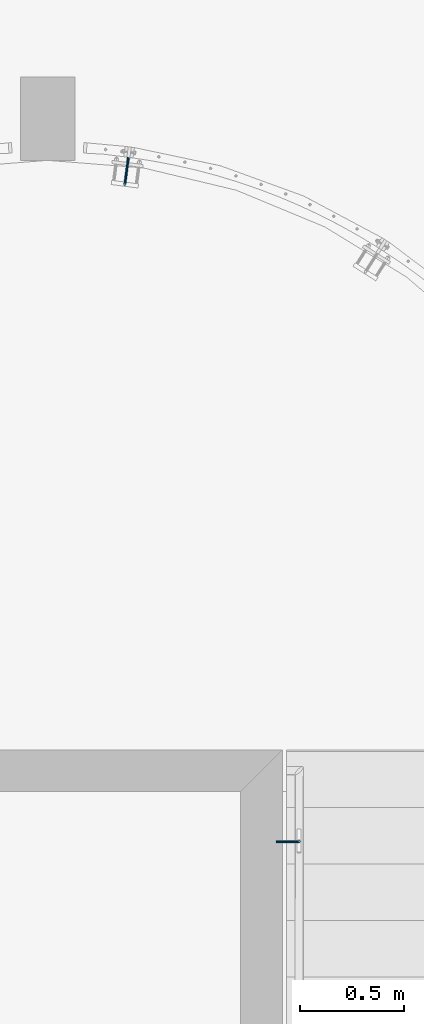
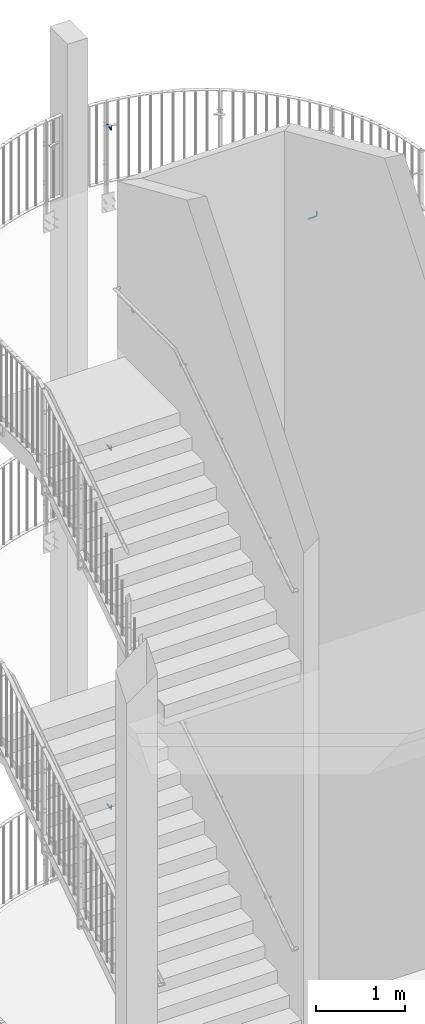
# One storey, part 142 of 296: 4 beams.
"""IFC2X3 building model written with IfcOpenShell, lengths in millimetres."""

from ifc_helpers import new_model, entity, si_unit, converted_unit, origin_with_axes, place, context, project, spatial, faceted_brep, material, element, save


model = new_model("IFC2X3")

# Units and contexts
model_context = context("Model", 3, precision=1e-09, world=origin_with_axes())
ifc_project = project(units=[si_unit("LENGTHUNIT", "METRE", prefix="MILLI"), si_unit("AREAUNIT", "SQUARE_METRE"), si_unit("VOLUMEUNIT", "CUBIC_METRE"), converted_unit("PLANEANGLEUNIT", "DEGREE", entity("IfcPlaneAngleMeasure", 0.01745329), si_unit("PLANEANGLEUNIT", "RADIAN"), dimensions=[0, 0, 0, 0, 0, 0, 0])], contexts=[model_context])

# Site, building, storey
site_placement = place(None, origin_with_axes())
site = spatial("IfcSite", under=ifc_project, at=site_placement, Name="TZD-S?d | Treppenhausgel?nder", CompositionType="ELEMENT")
building_placement = place(site_placement, origin_with_axes())
building = spatial("IfcBuilding", under=site, at=building_placement, Name="Struktur 1", CompositionType="ELEMENT")
storey_placement = place(building_placement, origin_with_axes())
storey = spatial("IfcBuildingStorey", under=building, at=storey_placement, Name="Default Storey", CompositionType="ELEMENT", Elevation=0.0)

# Beams
ifc_material = material(Name="S235JR")
beam_1_placement = place(None, origin_with_axes())
element("IfcBeam", 1, at=beam_1_placement, inside=storey, material=ifc_material, Name="-", ObjectType="-", context=model_context, shape_type="Brep", body=[
    faceted_brep([(3296.594669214, 2704.950627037, 12585.0), (3298.694323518, 2705.986061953, 12585.0), (3300.237907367, 2707.746181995, 12585.0), (3300.990424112, 2709.963024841, 12585.0), (3300.837309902, 2712.299096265, 12585.0), (3299.801874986, 2714.398750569, 12585.0), (3298.041754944, 2715.942334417, 12585.0), (3295.824912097, 2716.694851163, 12585.0), (3293.488840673, 2716.541736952, 12585.0), (3291.38918637, 2715.506302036, 12585.0), (3289.845602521, 2713.746181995, 12585.0), (3289.093085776, 2711.529339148, 12585.0), (3289.246199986, 2709.193267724, 12585.0), (3290.281634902, 2707.093613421, 12585.0), (3292.041754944, 2705.550029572, 12585.0), (3294.258597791, 2704.797512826, 12585.0), (3316.21650424, 2839.080238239, 12515.757359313), (3314.286617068, 2839.334312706, 12514.456722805), (3312.010159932, 2839.634013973, 12514.0), (3309.733702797, 2839.933715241, 12514.456722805), (3307.803815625, 2840.187789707, 12515.757359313), (3306.514306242, 2840.357556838, 12517.703899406), (3306.061490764, 2840.417171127, 12520.0), (3306.514306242, 2840.357556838, 12522.296100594), (3307.803815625, 2840.187789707, 12524.242640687), (3309.733702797, 2839.933715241, 12525.543277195), (3312.010159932, 2839.634013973, 12526.0), (3314.286617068, 2839.334312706, 12525.543277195), (3316.21650424, 2839.080238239, 12524.242640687), (3317.506013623, 2838.910471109, 12522.296100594), (3317.958829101, 2838.85085682, 12520.0), (3317.506013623, 2838.910471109, 12517.703899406), (3296.594669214, 2704.950627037, 12540.0), (3298.694323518, 2705.986061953, 12540.0), (3300.237907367, 2707.746181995, 12540.0), (3300.990424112, 2709.963024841, 12540.0), (3300.837309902, 2712.299096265, 12540.0), (3299.801874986, 2714.398750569, 12540.0), (3298.041754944, 2715.942334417, 12540.0), (3295.824912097, 2716.694851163, 12540.0), (3293.488840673, 2716.541736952, 12540.0), (3291.38918637, 2715.506302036, 12540.0), (3289.845602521, 2713.746181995, 12540.0), (3289.093085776, 2711.529339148, 12540.0), (3289.246199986, 2709.193267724, 12540.0), (3290.281634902, 2707.093613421, 12540.0), (3292.041754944, 2705.550029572, 12540.0), (3294.258597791, 2704.797512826, 12540.0), (3296.848459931, 2706.878358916, 12530.225011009), (3298.935191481, 2707.815635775, 12530.722743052), (3300.459435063, 2709.428851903, 12531.467651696), (3301.189138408, 2711.472409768, 12532.346331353), (3301.013210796, 2713.635196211, 12533.225011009), (3299.958435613, 2715.5879466, 12533.969919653), (3298.185392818, 2717.033372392, 12534.467651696), (3295.964012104, 2717.751420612, 12534.642431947), (3293.632478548, 2717.632774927, 12534.467651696), (3291.545746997, 2716.695498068, 12533.969919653), (3290.021503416, 2715.08228194, 12533.225011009), (3289.291800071, 2713.038724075, 12532.346331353), (3289.467727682, 2710.875937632, 12531.467651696), (3290.522502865, 2708.923187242, 12530.722743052), (3292.29554566, 2707.477761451, 12530.225011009), (3294.516926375, 2706.759713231, 12530.050230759), (3297.571194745, 2712.368074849, 12521.938175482), (3299.621125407, 2713.025821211, 12522.857864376), (3301.090292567, 2714.220690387, 12524.234276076), (3301.755028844, 2715.770774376, 12525.857864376), (3301.514134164, 2717.440086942, 12527.481452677), (3300.40428256, 2718.974490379, 12528.857864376), (3298.594438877, 2720.140385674, 12529.777553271), (3296.360135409, 2720.760275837, 12530.100505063), (3294.041524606, 2720.739788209, 12529.777553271), (3291.991593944, 2720.082041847, 12528.857864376), (3290.522426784, 2718.887172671, 12527.481452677), (3289.857690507, 2717.337088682, 12525.857864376), (3290.098585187, 2715.667776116, 12524.234276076), (3291.208436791, 2714.133372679, 12522.857864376), (3293.018280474, 2712.967477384, 12521.938175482), (3295.252583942, 2712.347587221, 12521.615223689), (3298.652843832, 2720.58401535, 12516.401089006), (3300.647698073, 2720.82341476, 12517.602720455), (3302.034437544, 2721.392183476, 12519.401089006), (3302.601943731, 2722.203731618, 12521.52240935), (3302.263818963, 2723.134508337, 12523.643729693), (3301.07153967, 2724.042811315, 12525.442098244), (3299.206619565, 2724.790359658, 12526.643729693), (3296.952975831, 2725.263345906, 12527.065686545), (3294.653705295, 2725.389762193, 12526.643729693), (3292.658851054, 2725.150362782, 12525.442098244), (3291.272111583, 2724.581594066, 12523.643729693), (3290.704605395, 2723.770045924, 12521.52240935), (3291.042730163, 2722.839269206, 12519.401089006), (3292.235009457, 2721.930966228, 12517.602720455), (3294.099929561, 2721.183417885, 12516.401089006), (3296.353573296, 2720.710431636, 12515.979132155), (3299.928735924, 2730.275377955, 12514.456722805), (3301.858623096, 2730.021303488, 12515.757359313), (3303.148132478, 2729.851536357, 12517.703899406), (3303.600947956, 2729.791922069, 12520.0), (3303.148132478, 2729.851536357, 12522.296100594), (3301.858623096, 2730.021303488, 12524.242640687), (3299.928735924, 2730.275377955, 12525.543277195), (3297.652278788, 2730.575079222, 12526.0), (3295.375821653, 2730.87478049, 12525.543277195), (3293.44593448, 2731.128854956, 12524.242640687), (3292.156425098, 2731.298622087, 12522.296100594), (3291.70360962, 2731.358236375, 12520.0), (3292.156425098, 2731.298622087, 12517.703899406), (3293.44593448, 2731.128854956, 12515.757359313), (3295.375821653, 2730.87478049, 12514.456722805), (3297.652278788, 2730.575079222, 12514.0)], [[[0, 1, 2, 3, 4, 5, 6, 7, 8, 9, 10, 11, 12, 13, 14, 15]], [[16, 17, 18, 19, 20, 21, 22, 23, 24, 25, 26, 27, 28, 29, 30, 31]], [[1, 0, 32, 33]], [[2, 1, 33, 34]], [[3, 2, 34, 35]], [[4, 3, 35, 36]], [[5, 4, 36, 37]], [[6, 5, 37, 38]], [[7, 6, 38, 39]], [[8, 7, 39, 40]], [[9, 8, 40, 41]], [[10, 9, 41, 42]], [[11, 10, 42, 43]], [[12, 11, 43, 44]], [[13, 12, 44, 45]], [[14, 13, 45, 46]], [[15, 14, 46, 47]], [[0, 15, 47, 32]], [[33, 32, 48, 49]], [[34, 33, 49, 50]], [[35, 34, 50, 51]], [[36, 35, 51, 52]], [[37, 36, 52, 53]], [[38, 37, 53, 54]], [[39, 38, 54, 55]], [[40, 39, 55, 56]], [[41, 40, 56, 57]], [[42, 41, 57, 58]], [[43, 42, 58, 59]], [[44, 43, 59, 60]], [[45, 44, 60, 61]], [[46, 45, 61, 62]], [[47, 46, 62, 63]], [[32, 47, 63, 48]], [[49, 48, 64, 65]], [[50, 49, 65, 66]], [[51, 50, 66, 67]], [[52, 51, 67, 68]], [[53, 52, 68, 69]], [[54, 53, 69, 70]], [[55, 54, 70, 71]], [[56, 55, 71, 72]], [[57, 56, 72, 73]], [[58, 57, 73, 74]], [[59, 58, 74, 75]], [[60, 59, 75, 76]], [[61, 60, 76, 77]], [[62, 61, 77, 78]], [[63, 62, 78, 79]], [[48, 63, 79, 64]], [[65, 64, 80, 81]], [[66, 65, 81, 82]], [[67, 66, 82, 83]], [[68, 67, 83, 84]], [[69, 68, 84, 85]], [[70, 69, 85, 86]], [[71, 70, 86, 87]], [[72, 71, 87, 88]], [[73, 72, 88, 89]], [[74, 73, 89, 90]], [[75, 74, 90, 91]], [[76, 75, 91, 92]], [[77, 76, 92, 93]], [[78, 77, 93, 94]], [[79, 78, 94, 95]], [[64, 79, 95, 80]], [[81, 80, 96, 97]], [[82, 81, 97, 98]], [[83, 82, 98, 99]], [[84, 83, 99, 100]], [[85, 84, 100, 101]], [[86, 85, 101, 102]], [[87, 86, 102, 103]], [[88, 87, 103, 104]], [[89, 88, 104, 105]], [[90, 89, 105, 106]], [[91, 90, 106, 107]], [[92, 91, 107, 108]], [[93, 92, 108, 109]], [[94, 93, 109, 110]], [[95, 94, 110, 111]], [[80, 95, 111, 96]], [[97, 96, 17, 16]], [[98, 97, 16, 31]], [[99, 98, 31, 30]], [[100, 99, 30, 29]], [[101, 100, 29, 28]], [[102, 101, 28, 27]], [[103, 102, 27, 26]], [[104, 103, 26, 25]], [[105, 104, 25, 24]], [[106, 105, 24, 23]], [[107, 106, 23, 22]], [[108, 107, 22, 21]], [[109, 108, 21, 20]], [[110, 109, 20, 19]], [[111, 110, 19, 18]], [[96, 111, 18, 17]]]),
])
beam_2_placement = place(None, origin_with_axes())
element("IfcBeam", 2, at=beam_2_placement, inside=storey, material=ifc_material, Name="-", ObjectType="-", context=model_context, shape_type="Brep", body=[
    faceted_brep([(3296.594669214, 2704.950627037, 8210.0), (3298.694323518, 2705.986061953, 8210.0), (3300.237907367, 2707.746181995, 8210.0), (3300.990424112, 2709.963024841, 8210.0), (3300.837309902, 2712.299096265, 8210.0), (3299.801874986, 2714.398750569, 8210.0), (3298.041754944, 2715.942334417, 8210.0), (3295.824912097, 2716.694851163, 8210.0), (3293.488840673, 2716.541736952, 8210.0), (3291.38918637, 2715.506302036, 8210.0), (3289.845602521, 2713.746181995, 8210.0), (3289.093085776, 2711.529339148, 8210.0), (3289.246199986, 2709.193267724, 8210.0), (3290.281634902, 2707.093613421, 8210.0), (3292.041754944, 2705.550029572, 8210.0), (3294.258597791, 2704.797512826, 8210.0), (3316.21650424, 2839.080238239, 8140.757359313), (3314.286617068, 2839.334312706, 8139.456722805), (3312.010159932, 2839.634013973, 8139.0), (3309.733702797, 2839.933715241, 8139.456722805), (3307.803815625, 2840.187789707, 8140.757359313), (3306.514306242, 2840.357556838, 8142.703899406), (3306.061490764, 2840.417171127, 8145.0), (3306.514306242, 2840.357556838, 8147.296100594), (3307.803815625, 2840.187789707, 8149.242640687), (3309.733702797, 2839.933715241, 8150.543277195), (3312.010159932, 2839.634013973, 8151.0), (3314.286617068, 2839.334312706, 8150.543277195), (3316.21650424, 2839.080238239, 8149.242640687), (3317.506013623, 2838.910471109, 8147.296100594), (3317.958829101, 2838.85085682, 8145.0), (3317.506013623, 2838.910471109, 8142.703899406), (3296.594669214, 2704.950627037, 8165.0), (3298.694323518, 2705.986061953, 8165.0), (3300.237907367, 2707.746181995, 8165.0), (3300.990424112, 2709.963024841, 8165.0), (3300.837309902, 2712.299096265, 8165.0), (3299.801874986, 2714.398750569, 8165.0), (3298.041754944, 2715.942334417, 8165.0), (3295.824912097, 2716.694851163, 8165.0), (3293.488840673, 2716.541736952, 8165.0), (3291.38918637, 2715.506302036, 8165.0), (3289.845602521, 2713.746181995, 8165.0), (3289.093085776, 2711.529339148, 8165.0), (3289.246199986, 2709.193267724, 8165.0), (3290.281634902, 2707.093613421, 8165.0), (3292.041754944, 2705.550029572, 8165.0), (3294.258597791, 2704.797512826, 8165.0), (3296.848459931, 2706.878358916, 8155.225011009), (3298.935191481, 2707.815635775, 8155.722743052), (3300.459435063, 2709.428851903, 8156.467651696), (3301.189138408, 2711.472409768, 8157.346331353), (3301.013210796, 2713.635196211, 8158.225011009), (3299.958435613, 2715.5879466, 8158.969919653), (3298.185392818, 2717.033372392, 8159.467651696), (3295.964012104, 2717.751420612, 8159.642431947), (3293.632478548, 2717.632774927, 8159.467651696), (3291.545746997, 2716.695498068, 8158.969919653), (3290.021503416, 2715.08228194, 8158.225011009), (3289.291800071, 2713.038724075, 8157.346331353), (3289.467727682, 2710.875937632, 8156.467651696), (3290.522502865, 2708.923187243, 8155.722743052), (3292.29554566, 2707.477761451, 8155.225011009), (3294.516926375, 2706.759713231, 8155.050230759), (3297.571194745, 2712.368074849, 8146.938175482), (3299.621125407, 2713.025821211, 8147.857864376), (3301.090292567, 2714.220690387, 8149.234276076), (3301.755028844, 2715.770774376, 8150.857864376), (3301.514134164, 2717.440086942, 8152.481452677), (3300.40428256, 2718.974490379, 8153.857864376), (3298.594438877, 2720.140385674, 8154.777553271), (3296.360135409, 2720.760275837, 8155.100505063), (3294.041524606, 2720.739788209, 8154.777553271), (3291.991593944, 2720.082041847, 8153.857864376), (3290.522426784, 2718.887172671, 8152.481452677), (3289.857690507, 2717.337088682, 8150.857864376), (3290.098585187, 2715.667776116, 8149.234276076), (3291.208436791, 2714.133372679, 8147.857864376), (3293.018280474, 2712.967477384, 8146.938175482), (3295.252583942, 2712.347587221, 8146.615223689), (3298.652843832, 2720.58401535, 8141.401089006), (3300.647698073, 2720.82341476, 8142.602720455), (3302.034437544, 2721.392183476, 8144.401089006), (3302.601943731, 2722.203731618, 8146.52240935), (3302.263818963, 2723.134508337, 8148.643729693), (3301.07153967, 2724.042811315, 8150.442098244), (3299.206619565, 2724.790359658, 8151.643729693), (3296.952975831, 2725.263345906, 8152.065686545), (3294.653705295, 2725.389762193, 8151.643729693), (3292.658851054, 2725.150362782, 8150.442098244), (3291.272111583, 2724.581594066, 8148.643729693), (3290.704605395, 2723.770045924, 8146.52240935), (3291.042730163, 2722.839269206, 8144.401089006), (3292.235009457, 2721.930966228, 8142.602720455), (3294.099929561, 2721.183417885, 8141.401089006), (3296.353573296, 2720.710431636, 8140.979132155), (3299.928735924, 2730.275377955, 8139.456722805), (3301.858623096, 2730.021303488, 8140.757359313), (3303.148132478, 2729.851536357, 8142.703899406), (3303.600947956, 2729.791922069, 8145.0), (3303.148132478, 2729.851536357, 8147.296100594), (3301.858623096, 2730.021303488, 8149.242640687), (3299.928735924, 2730.275377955, 8150.543277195), (3297.652278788, 2730.575079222, 8151.0), (3295.375821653, 2730.87478049, 8150.543277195), (3293.44593448, 2731.128854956, 8149.242640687), (3292.156425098, 2731.298622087, 8147.296100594), (3291.70360962, 2731.358236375, 8145.0), (3292.156425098, 2731.298622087, 8142.703899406), (3293.44593448, 2731.128854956, 8140.757359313), (3295.375821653, 2730.87478049, 8139.456722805), (3297.652278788, 2730.575079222, 8139.0)], [[[0, 1, 2, 3, 4, 5, 6, 7, 8, 9, 10, 11, 12, 13, 14, 15]], [[16, 17, 18, 19, 20, 21, 22, 23, 24, 25, 26, 27, 28, 29, 30, 31]], [[1, 0, 32, 33]], [[2, 1, 33, 34]], [[3, 2, 34, 35]], [[4, 3, 35, 36]], [[5, 4, 36, 37]], [[6, 5, 37, 38]], [[7, 6, 38, 39]], [[8, 7, 39, 40]], [[9, 8, 40, 41]], [[10, 9, 41, 42]], [[11, 10, 42, 43]], [[12, 11, 43, 44]], [[13, 12, 44, 45]], [[14, 13, 45, 46]], [[15, 14, 46, 47]], [[0, 15, 47, 32]], [[33, 32, 48, 49]], [[34, 33, 49, 50]], [[35, 34, 50, 51]], [[36, 35, 51, 52]], [[37, 36, 52, 53]], [[38, 37, 53, 54]], [[39, 38, 54, 55]], [[40, 39, 55, 56]], [[41, 40, 56, 57]], [[42, 41, 57, 58]], [[43, 42, 58, 59]], [[44, 43, 59, 60]], [[45, 44, 60, 61]], [[46, 45, 61, 62]], [[47, 46, 62, 63]], [[32, 47, 63, 48]], [[49, 48, 64, 65]], [[50, 49, 65, 66]], [[51, 50, 66, 67]], [[52, 51, 67, 68]], [[53, 52, 68, 69]], [[54, 53, 69, 70]], [[55, 54, 70, 71]], [[56, 55, 71, 72]], [[57, 56, 72, 73]], [[58, 57, 73, 74]], [[59, 58, 74, 75]], [[60, 59, 75, 76]], [[61, 60, 76, 77]], [[62, 61, 77, 78]], [[63, 62, 78, 79]], [[48, 63, 79, 64]], [[65, 64, 80, 81]], [[66, 65, 81, 82]], [[67, 66, 82, 83]], [[68, 67, 83, 84]], [[69, 68, 84, 85]], [[70, 69, 85, 86]], [[71, 70, 86, 87]], [[72, 71, 87, 88]], [[73, 72, 88, 89]], [[74, 73, 89, 90]], [[75, 74, 90, 91]], [[76, 75, 91, 92]], [[77, 76, 92, 93]], [[78, 77, 93, 94]], [[79, 78, 94, 95]], [[64, 79, 95, 80]], [[81, 80, 96, 97]], [[82, 81, 97, 98]], [[83, 82, 98, 99]], [[84, 83, 99, 100]], [[85, 84, 100, 101]], [[86, 85, 101, 102]], [[87, 86, 102, 103]], [[88, 87, 103, 104]], [[89, 88, 104, 105]], [[90, 89, 105, 106]], [[91, 90, 106, 107]], [[92, 91, 107, 108]], [[93, 92, 108, 109]], [[94, 93, 109, 110]], [[95, 94, 110, 111]], [[80, 95, 111, 96]], [[97, 96, 17, 16]], [[98, 97, 16, 31]], [[99, 98, 31, 30]], [[100, 99, 30, 29]], [[101, 100, 29, 28]], [[102, 101, 28, 27]], [[103, 102, 27, 26]], [[104, 103, 26, 25]], [[105, 104, 25, 24]], [[106, 105, 24, 23]], [[107, 106, 23, 22]], [[108, 107, 22, 21]], [[109, 108, 21, 20]], [[110, 109, 20, 19]], [[111, 110, 19, 18]], [[96, 111, 18, 17]]]),
])
beam_3_placement = place(None, origin_with_axes())
element("IfcBeam", 3, at=beam_3_placement, inside=storey, material=ifc_material, Name="-", ObjectType="-", context=model_context, shape_type="Brep", body=[
    faceted_brep([(4133.10541862, -445.00184, 13035.889059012), (4126.89258138, -445.00184, 13035.889059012), (4127.702899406, -445.543277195, 13035.889059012), (4129.999, -446.0, 13035.889059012), (4132.295100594, -445.543277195, 13035.889059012), (4135.542277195, -442.296100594, 13034.137248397), (4134.241640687, -444.242640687, 13035.397521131), (4134.241640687, -444.242640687, 12990.889059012), (4135.542277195, -442.296100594, 12990.889059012), (4132.295100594, -445.543277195, 12990.889059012), (4129.999, -446.0, 12990.889059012), (4127.702899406, -445.543277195, 12990.889059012), (4125.756359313, -444.242640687, 13035.397521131), (4125.756359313, -444.242640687, 12990.889059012), (4124.455722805, -442.296100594, 13034.137248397), (4124.455722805, -442.296100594, 12990.889059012), (4123.999, -440.0, 13032.650655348), (4123.999, -440.0, 12990.889059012), (4124.455722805, -437.703899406, 13031.164062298), (4124.455722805, -437.703899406, 12990.889059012), (4125.756359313, -435.757359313, 13029.903789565), (4125.756359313, -435.757359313, 12990.889059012), (4127.702899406, -434.456722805, 13029.061702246), (4127.702899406, -434.456722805, 12990.889059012), (4129.999, -434.0, 13028.766000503), (4129.999, -434.0, 12990.889059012), (4132.295100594, -434.456722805, 13029.061702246), (4132.295100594, -434.456722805, 12990.889059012), (4134.241640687, -435.757359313, 13029.903789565), (4134.241640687, -435.757359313, 12990.889059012), (4135.542277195, -437.703899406, 13031.164062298), (4135.542277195, -437.703899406, 12990.889059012), (4135.999, -440.0, 13032.650655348), (4135.999, -440.0, 12990.889059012), (4019.999, -442.296100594, 12965.345781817), (4019.999, -444.242640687, 12966.646418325), (4019.999, -445.543277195, 12968.592958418), (4019.999, -446.0, 12970.889059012), (4019.999, -445.543277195, 12973.185159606), (4019.999, -444.242640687, 12975.131699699), (4019.999, -442.296100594, 12976.432336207), (4019.999, -440.0, 12976.889059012), (4019.999, -437.703899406, 12976.432336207), (4019.999, -435.757359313, 12975.131699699), (4019.999, -434.456722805, 12973.185159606), (4019.999, -434.0, 12970.889059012), (4019.999, -434.456722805, 12968.592958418), (4019.999, -435.757359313, 12966.646418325), (4019.999, -437.703899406, 12965.345781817), (4019.999, -440.0, 12964.889059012), (4132.396279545, -444.242640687, 12981.611802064), (4133.597910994, -442.296100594, 12981.114070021), (4130.597910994, -445.543277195, 12982.356710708), (4128.47659065, -446.0, 12983.235390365), (4126.355270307, -445.543277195, 12984.114070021), (4124.556901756, -444.242640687, 12984.858978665), (4123.355270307, -442.296100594, 12985.356710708), (4122.933313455, -440.0, 12985.531490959), (4123.355270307, -437.703899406, 12985.356710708), (4124.556901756, -435.757359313, 12984.858978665), (4126.355270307, -434.456722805, 12984.114070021), (4128.47659065, -434.0, 12983.235390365), (4130.597910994, -434.456722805, 12982.356710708), (4132.396279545, -435.757359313, 12981.611802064), (4133.597910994, -437.703899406, 12981.114070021), (4134.019867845, -440.0, 12980.939289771), (4127.141135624, -444.242640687, 12973.746923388), (4128.060824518, -442.296100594, 12972.827234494), (4125.764723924, -445.543277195, 12975.123335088), (4124.141135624, -446.0, 12976.746923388), (4122.517547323, -445.543277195, 12978.370511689), (4121.141135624, -444.242640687, 12979.746923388), (4120.221446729, -442.296100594, 12980.666612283), (4119.898494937, -440.0, 12980.989564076), (4120.221446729, -437.703899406, 12980.666612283), (4121.141135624, -435.757359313, 12979.746923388), (4122.517547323, -434.456722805, 12978.370511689), (4124.141135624, -434.0, 12976.746923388), (4125.764723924, -434.456722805, 12975.123335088), (4127.141135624, -435.757359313, 12973.746923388), (4128.060824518, -437.703899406, 12972.827234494), (4128.383776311, -440.0, 12972.504282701), (4119.276256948, -444.242640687, 12968.491779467), (4119.773988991, -442.296100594, 12967.290148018), (4118.531348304, -445.543277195, 12970.290148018), (4117.652668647, -446.0, 12972.411468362), (4116.773988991, -445.543277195, 12974.532788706), (4116.029080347, -444.242640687, 12976.331157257), (4115.531348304, -442.296100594, 12977.532788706), (4115.356568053, -440.0, 12977.954745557), (4115.531348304, -437.703899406, 12977.532788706), (4116.029080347, -435.757359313, 12976.331157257), (4116.773988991, -434.456722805, 12974.532788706), (4117.652668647, -434.0, 12972.411468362), (4118.531348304, -434.456722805, 12970.290148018), (4119.276256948, -435.757359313, 12968.491779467), (4119.773988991, -437.703899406, 12967.290148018), (4119.948769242, -440.0, 12966.868191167), (4109.999, -444.242640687, 12966.646418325), (4109.999, -442.296100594, 12965.345781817), (4109.999, -445.543277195, 12968.592958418), (4109.999, -446.0, 12970.889059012), (4109.999, -445.543277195, 12973.185159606), (4109.999, -444.242640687, 12975.131699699), (4109.999, -442.296100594, 12976.432336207), (4109.999, -440.0, 12976.889059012), (4109.999, -437.703899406, 12976.432336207), (4109.999, -435.757359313, 12975.131699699), (4109.999, -434.456722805, 12973.185159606), (4109.999, -434.0, 12970.889059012), (4109.999, -434.456722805, 12968.592958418), (4109.999, -435.757359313, 12966.646418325), (4109.999, -437.703899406, 12965.345781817), (4109.999, -440.0, 12964.889059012)], [[[0, 1, 2, 3, 4]], [[5, 6, 7, 8]], [[6, 0, 4, 9, 7]], [[4, 3, 10, 9]], [[3, 2, 11, 10]], [[1, 12, 13, 11, 2]], [[12, 14, 15, 13]], [[14, 16, 17, 15]], [[16, 18, 19, 17]], [[18, 20, 21, 19]], [[20, 22, 23, 21]], [[22, 24, 25, 23]], [[24, 26, 27, 25]], [[26, 28, 29, 27]], [[28, 30, 31, 29]], [[30, 32, 33, 31]], [[32, 5, 8, 33]], [[16, 14, 12, 1, 0, 6, 5, 32, 30, 28, 26, 24, 22, 20, 18]], [[34, 35, 36, 37, 38, 39, 40, 41, 42, 43, 44, 45, 46, 47, 48, 49]], [[8, 7, 50, 51]], [[7, 9, 52, 50]], [[9, 10, 53, 52]], [[10, 11, 54, 53]], [[11, 13, 55, 54]], [[13, 15, 56, 55]], [[15, 17, 57, 56]], [[17, 19, 58, 57]], [[19, 21, 59, 58]], [[21, 23, 60, 59]], [[23, 25, 61, 60]], [[25, 27, 62, 61]], [[27, 29, 63, 62]], [[29, 31, 64, 63]], [[31, 33, 65, 64]], [[33, 8, 51, 65]], [[51, 50, 66, 67]], [[50, 52, 68, 66]], [[52, 53, 69, 68]], [[53, 54, 70, 69]], [[54, 55, 71, 70]], [[55, 56, 72, 71]], [[56, 57, 73, 72]], [[57, 58, 74, 73]], [[58, 59, 75, 74]], [[59, 60, 76, 75]], [[60, 61, 77, 76]], [[61, 62, 78, 77]], [[62, 63, 79, 78]], [[63, 64, 80, 79]], [[64, 65, 81, 80]], [[65, 51, 67, 81]], [[67, 66, 82, 83]], [[66, 68, 84, 82]], [[68, 69, 85, 84]], [[69, 70, 86, 85]], [[70, 71, 87, 86]], [[71, 72, 88, 87]], [[72, 73, 89, 88]], [[73, 74, 90, 89]], [[74, 75, 91, 90]], [[75, 76, 92, 91]], [[76, 77, 93, 92]], [[77, 78, 94, 93]], [[78, 79, 95, 94]], [[79, 80, 96, 95]], [[80, 81, 97, 96]], [[81, 67, 83, 97]], [[83, 82, 98, 99]], [[82, 84, 100, 98]], [[84, 85, 101, 100]], [[85, 86, 102, 101]], [[86, 87, 103, 102]], [[87, 88, 104, 103]], [[88, 89, 105, 104]], [[89, 90, 106, 105]], [[90, 91, 107, 106]], [[91, 92, 108, 107]], [[92, 93, 109, 108]], [[93, 94, 110, 109]], [[94, 95, 111, 110]], [[95, 96, 112, 111]], [[96, 97, 113, 112]], [[97, 83, 99, 113]], [[99, 98, 35, 34]], [[98, 100, 36, 35]], [[100, 101, 37, 36]], [[101, 102, 38, 37]], [[102, 103, 39, 38]], [[103, 104, 40, 39]], [[104, 105, 41, 40]], [[105, 106, 42, 41]], [[106, 107, 43, 42]], [[107, 108, 44, 43]], [[108, 109, 45, 44]], [[109, 110, 46, 45]], [[110, 111, 47, 46]], [[111, 112, 48, 47]], [[112, 113, 49, 48]], [[113, 99, 34, 49]]]),
])
beam_4_placement = place(None, origin_with_axes())
element("IfcBeam", 4, at=beam_4_placement, inside=storey, material=ifc_material, Name="-", ObjectType="-", context=model_context, shape_type="Brep", body=[
    faceted_brep([(3296.594669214, 2704.950627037, 3310.0), (3298.694323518, 2705.986061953, 3310.0), (3300.237907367, 2707.746181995, 3310.0), (3300.990424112, 2709.963024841, 3310.0), (3300.837309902, 2712.299096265, 3310.0), (3299.801874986, 2714.398750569, 3310.0), (3298.041754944, 2715.942334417, 3310.0), (3295.824912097, 2716.694851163, 3310.0), (3293.488840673, 2716.541736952, 3310.0), (3291.38918637, 2715.506302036, 3310.0), (3289.845602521, 2713.746181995, 3310.0), (3289.093085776, 2711.529339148, 3310.0), (3289.246199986, 2709.193267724, 3310.0), (3290.281634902, 2707.093613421, 3310.0), (3292.041754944, 2705.550029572, 3310.0), (3294.258597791, 2704.797512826, 3310.0), (3316.21650424, 2839.080238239, 3240.757359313), (3314.286617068, 2839.334312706, 3239.456722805), (3312.010159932, 2839.634013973, 3239.0), (3309.733702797, 2839.933715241, 3239.456722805), (3307.803815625, 2840.187789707, 3240.757359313), (3306.514306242, 2840.357556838, 3242.703899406), (3306.061490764, 2840.417171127, 3245.0), (3306.514306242, 2840.357556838, 3247.296100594), (3307.803815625, 2840.187789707, 3249.242640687), (3309.733702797, 2839.933715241, 3250.543277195), (3312.010159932, 2839.634013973, 3251.0), (3314.286617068, 2839.334312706, 3250.543277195), (3316.21650424, 2839.080238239, 3249.242640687), (3317.506013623, 2838.910471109, 3247.296100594), (3317.958829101, 2838.85085682, 3245.0), (3317.506013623, 2838.910471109, 3242.703899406), (3296.594669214, 2704.950627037, 3265.0), (3298.694323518, 2705.986061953, 3265.0), (3300.237907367, 2707.746181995, 3265.0), (3300.990424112, 2709.963024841, 3265.0), (3300.837309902, 2712.299096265, 3265.0), (3299.801874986, 2714.398750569, 3265.0), (3298.041754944, 2715.942334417, 3265.0), (3295.824912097, 2716.694851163, 3265.0), (3293.488840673, 2716.541736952, 3265.0), (3291.38918637, 2715.506302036, 3265.0), (3289.845602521, 2713.746181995, 3265.0), (3289.093085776, 2711.529339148, 3265.0), (3289.246199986, 2709.193267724, 3265.0), (3290.281634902, 2707.093613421, 3265.0), (3292.041754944, 2705.550029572, 3265.0), (3294.258597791, 2704.797512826, 3265.0), (3296.848459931, 2706.878358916, 3255.225011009), (3298.935191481, 2707.815635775, 3255.722743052), (3300.459435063, 2709.428851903, 3256.467651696), (3301.189138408, 2711.472409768, 3257.346331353), (3301.013210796, 2713.635196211, 3258.225011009), (3299.958435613, 2715.5879466, 3258.969919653), (3298.185392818, 2717.033372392, 3259.467651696), (3295.964012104, 2717.751420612, 3259.642431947), (3293.632478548, 2717.632774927, 3259.467651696), (3291.545746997, 2716.695498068, 3258.969919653), (3290.021503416, 2715.08228194, 3258.225011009), (3289.291800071, 2713.038724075, 3257.346331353), (3289.467727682, 2710.875937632, 3256.467651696), (3290.522502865, 2708.923187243, 3255.722743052), (3292.29554566, 2707.477761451, 3255.225011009), (3294.516926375, 2706.759713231, 3255.050230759), (3297.571194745, 2712.368074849, 3246.938175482), (3299.621125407, 2713.025821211, 3247.857864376), (3301.090292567, 2714.220690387, 3249.234276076), (3301.755028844, 2715.770774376, 3250.857864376), (3301.514134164, 2717.440086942, 3252.481452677), (3300.40428256, 2718.974490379, 3253.857864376), (3298.594438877, 2720.140385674, 3254.777553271), (3296.360135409, 2720.760275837, 3255.100505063), (3294.041524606, 2720.739788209, 3254.777553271), (3291.991593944, 2720.082041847, 3253.857864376), (3290.522426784, 2718.887172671, 3252.481452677), (3289.857690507, 2717.337088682, 3250.857864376), (3290.098585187, 2715.667776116, 3249.234276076), (3291.208436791, 2714.133372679, 3247.857864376), (3293.018280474, 2712.967477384, 3246.938175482), (3295.252583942, 2712.347587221, 3246.615223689), (3298.652843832, 2720.58401535, 3241.401089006), (3300.647698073, 2720.82341476, 3242.602720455), (3302.034437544, 2721.392183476, 3244.401089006), (3302.601943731, 2722.203731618, 3246.52240935), (3302.263818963, 2723.134508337, 3248.643729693), (3301.07153967, 2724.042811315, 3250.442098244), (3299.206619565, 2724.790359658, 3251.643729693), (3296.952975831, 2725.263345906, 3252.065686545), (3294.653705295, 2725.389762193, 3251.643729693), (3292.658851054, 2725.150362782, 3250.442098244), (3291.272111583, 2724.581594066, 3248.643729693), (3290.704605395, 2723.770045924, 3246.52240935), (3291.042730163, 2722.839269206, 3244.401089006), (3292.235009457, 2721.930966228, 3242.602720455), (3294.099929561, 2721.183417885, 3241.401089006), (3296.353573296, 2720.710431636, 3240.979132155), (3299.928735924, 2730.275377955, 3239.456722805), (3301.858623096, 2730.021303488, 3240.757359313), (3303.148132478, 2729.851536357, 3242.703899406), (3303.600947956, 2729.791922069, 3245.0), (3303.148132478, 2729.851536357, 3247.296100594), (3301.858623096, 2730.021303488, 3249.242640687), (3299.928735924, 2730.275377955, 3250.543277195), (3297.652278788, 2730.575079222, 3251.0), (3295.375821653, 2730.87478049, 3250.543277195), (3293.44593448, 2731.128854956, 3249.242640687), (3292.156425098, 2731.298622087, 3247.296100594), (3291.70360962, 2731.358236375, 3245.0), (3292.156425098, 2731.298622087, 3242.703899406), (3293.44593448, 2731.128854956, 3240.757359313), (3295.375821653, 2730.87478049, 3239.456722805), (3297.652278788, 2730.575079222, 3239.0)], [[[0, 1, 2, 3, 4, 5, 6, 7, 8, 9, 10, 11, 12, 13, 14, 15]], [[16, 17, 18, 19, 20, 21, 22, 23, 24, 25, 26, 27, 28, 29, 30, 31]], [[1, 0, 32, 33]], [[2, 1, 33, 34]], [[3, 2, 34, 35]], [[4, 3, 35, 36]], [[5, 4, 36, 37]], [[6, 5, 37, 38]], [[7, 6, 38, 39]], [[8, 7, 39, 40]], [[9, 8, 40, 41]], [[10, 9, 41, 42]], [[11, 10, 42, 43]], [[12, 11, 43, 44]], [[13, 12, 44, 45]], [[14, 13, 45, 46]], [[15, 14, 46, 47]], [[0, 15, 47, 32]], [[33, 32, 48, 49]], [[34, 33, 49, 50]], [[35, 34, 50, 51]], [[36, 35, 51, 52]], [[37, 36, 52, 53]], [[38, 37, 53, 54]], [[39, 38, 54, 55]], [[40, 39, 55, 56]], [[41, 40, 56, 57]], [[42, 41, 57, 58]], [[43, 42, 58, 59]], [[44, 43, 59, 60]], [[45, 44, 60, 61]], [[46, 45, 61, 62]], [[47, 46, 62, 63]], [[32, 47, 63, 48]], [[49, 48, 64, 65]], [[50, 49, 65, 66]], [[51, 50, 66, 67]], [[52, 51, 67, 68]], [[53, 52, 68, 69]], [[54, 53, 69, 70]], [[55, 54, 70, 71]], [[56, 55, 71, 72]], [[57, 56, 72, 73]], [[58, 57, 73, 74]], [[59, 58, 74, 75]], [[60, 59, 75, 76]], [[61, 60, 76, 77]], [[62, 61, 77, 78]], [[63, 62, 78, 79]], [[48, 63, 79, 64]], [[65, 64, 80, 81]], [[66, 65, 81, 82]], [[67, 66, 82, 83]], [[68, 67, 83, 84]], [[69, 68, 84, 85]], [[70, 69, 85, 86]], [[71, 70, 86, 87]], [[72, 71, 87, 88]], [[73, 72, 88, 89]], [[74, 73, 89, 90]], [[75, 74, 90, 91]], [[76, 75, 91, 92]], [[77, 76, 92, 93]], [[78, 77, 93, 94]], [[79, 78, 94, 95]], [[64, 79, 95, 80]], [[81, 80, 96, 97]], [[82, 81, 97, 98]], [[83, 82, 98, 99]], [[84, 83, 99, 100]], [[85, 84, 100, 101]], [[86, 85, 101, 102]], [[87, 86, 102, 103]], [[88, 87, 103, 104]], [[89, 88, 104, 105]], [[90, 89, 105, 106]], [[91, 90, 106, 107]], [[92, 91, 107, 108]], [[93, 92, 108, 109]], [[94, 93, 109, 110]], [[95, 94, 110, 111]], [[80, 95, 111, 96]], [[97, 96, 17, 16]], [[98, 97, 16, 31]], [[99, 98, 31, 30]], [[100, 99, 30, 29]], [[101, 100, 29, 28]], [[102, 101, 28, 27]], [[103, 102, 27, 26]], [[104, 103, 26, 25]], [[105, 104, 25, 24]], [[106, 105, 24, 23]], [[107, 106, 23, 22]], [[108, 107, 22, 21]], [[109, 108, 21, 20]], [[110, 109, 20, 19]], [[111, 110, 19, 18]], [[96, 111, 18, 17]]]),
])

save(model, "model.ifc")
